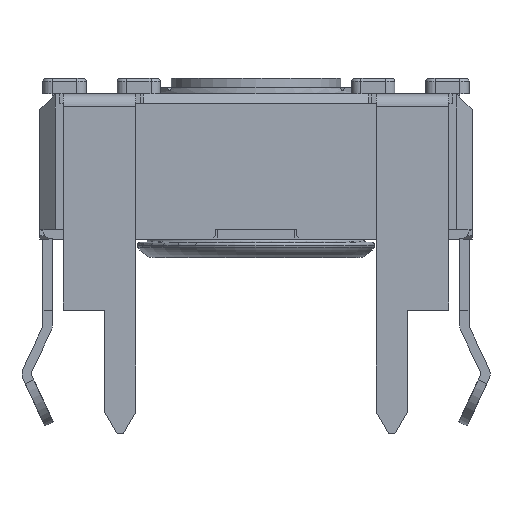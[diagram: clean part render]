
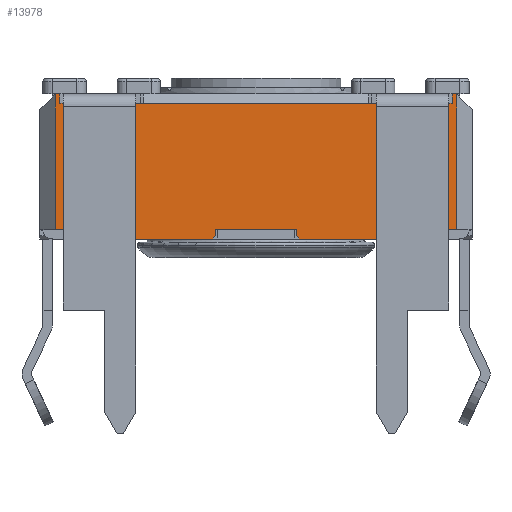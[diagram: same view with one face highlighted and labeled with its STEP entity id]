
A CAD part, front view. The second image highlights one B-rep face of the part: STEP entity #13978.
In plain terms, the highlighted planar face has unit normal (0, -1, 0).
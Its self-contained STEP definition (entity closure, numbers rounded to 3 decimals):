
#445=PLANE('',#14937);
#1091=FACE_OUTER_BOUND('',#1817,.T.);
#1817=EDGE_LOOP('',(#11406,#11407,#11408,#11409,#11410,#11411,#11412,#11413,
#11414,#11415,#11416,#11417,#11418,#11419,#11420,#11421,#11422,#11423,#11424,
#11425,#11426,#11427,#11428,#11429,#11430));
#2475=LINE('',#20078,#4070);
#2478=LINE('',#20086,#4073);
#2504=LINE('',#20137,#4099);
#2505=LINE('',#20139,#4100);
#2508=LINE('',#20147,#4103);
#2534=LINE('',#20198,#4129);
#2726=LINE('',#20762,#4321);
#2739=LINE('',#20786,#4334);
#2891=LINE('',#21344,#4486);
#3055=LINE('',#21786,#4650);
#3060=LINE('',#21796,#4655);
#3065=LINE('',#21806,#4660);
#3080=LINE('',#21832,#4675);
#3166=LINE('',#22106,#4761);
#3174=LINE('',#22124,#4769);
#3180=LINE('',#22132,#4775);
#3181=LINE('',#22135,#4776);
#3182=LINE('',#22137,#4777);
#3183=LINE('',#22139,#4778);
#3184=LINE('',#22140,#4779);
#3185=LINE('',#22141,#4780);
#3186=LINE('',#22142,#4781);
#3187=LINE('',#22143,#4782);
#3188=LINE('',#22144,#4783);
#3189=LINE('',#22145,#4784);
#4070=VECTOR('',#16115,10.);
#4073=VECTOR('',#16126,10.);
#4099=VECTOR('',#16154,10.);
#4100=VECTOR('',#16157,10.);
#4103=VECTOR('',#16168,10.);
#4129=VECTOR('',#16196,10.);
#4321=VECTOR('',#16766,10.);
#4334=VECTOR('',#16793,10.);
#4486=VECTOR('',#17175,10.);
#4650=VECTOR('',#17471,10.);
#4655=VECTOR('',#17476,10.);
#4660=VECTOR('',#17481,10.);
#4675=VECTOR('',#17498,10.);
#4761=VECTOR('',#17718,10.);
#4769=VECTOR('',#17730,10.);
#4775=VECTOR('',#17740,10.);
#4776=VECTOR('',#17743,10.);
#4777=VECTOR('',#17744,10.);
#4778=VECTOR('',#17745,10.);
#4779=VECTOR('',#17746,10.);
#4780=VECTOR('',#17747,10.);
#4781=VECTOR('',#17748,10.);
#4782=VECTOR('',#17749,10.);
#4783=VECTOR('',#17750,10.);
#4784=VECTOR('',#17751,10.);
#5718=VERTEX_POINT('',#19328);
#5728=VERTEX_POINT('',#19350);
#5736=VERTEX_POINT('',#19371);
#5775=VERTEX_POINT('',#19468);
#5996=VERTEX_POINT('',#20085);
#6020=VERTEX_POINT('',#20135);
#6021=VERTEX_POINT('',#20146);
#6045=VERTEX_POINT('',#20196);
#6227=VERTEX_POINT('',#20759);
#6228=VERTEX_POINT('',#20761);
#6231=VERTEX_POINT('',#20783);
#6232=VERTEX_POINT('',#20785);
#6366=VERTEX_POINT('',#21340);
#6483=VERTEX_POINT('',#21785);
#6487=VERTEX_POINT('',#21793);
#6488=VERTEX_POINT('',#21795);
#6492=VERTEX_POINT('',#21803);
#6493=VERTEX_POINT('',#21805);
#6555=VERTEX_POINT('',#22104);
#6556=VERTEX_POINT('',#22105);
#6563=VERTEX_POINT('',#22122);
#6564=VERTEX_POINT('',#22123);
#6565=VERTEX_POINT('',#22134);
#6566=VERTEX_POINT('',#22136);
#6567=VERTEX_POINT('',#22138);
#7420=EDGE_CURVE('',#5775,#5736,#2475,.T.);
#7423=EDGE_CURVE('',#5996,#5775,#2478,.T.);
#7449=EDGE_CURVE('',#5736,#6020,#2504,.T.);
#7450=EDGE_CURVE('',#5718,#5728,#2505,.T.);
#7453=EDGE_CURVE('',#6021,#5718,#2508,.T.);
#7479=EDGE_CURVE('',#5728,#6045,#2534,.T.);
#7762=EDGE_CURVE('',#6228,#6227,#2726,.T.);
#7775=EDGE_CURVE('',#6232,#6231,#2739,.T.);
#7987=EDGE_CURVE('',#6232,#6366,#2891,.T.);
#8172=EDGE_CURVE('',#6483,#6366,#3055,.T.);
#8177=EDGE_CURVE('',#6488,#6487,#3060,.T.);
#8182=EDGE_CURVE('',#6493,#6492,#3065,.T.);
#8197=EDGE_CURVE('',#6493,#6227,#3080,.T.);
#8302=EDGE_CURVE('',#6555,#6556,#3166,.T.);
#8310=EDGE_CURVE('',#6563,#6564,#3174,.T.);
#8316=EDGE_CURVE('',#6488,#6555,#3180,.T.);
#8317=EDGE_CURVE('',#6487,#6565,#3181,.T.);
#8318=EDGE_CURVE('',#6566,#6565,#3182,.T.);
#8319=EDGE_CURVE('',#6566,#6567,#3183,.T.);
#8320=EDGE_CURVE('',#6567,#6483,#3184,.T.);
#8321=EDGE_CURVE('',#6231,#6021,#3185,.T.);
#8322=EDGE_CURVE('',#5996,#6045,#3186,.T.);
#8323=EDGE_CURVE('',#6020,#6228,#3187,.T.);
#8324=EDGE_CURVE('',#6492,#6564,#3188,.T.);
#8325=EDGE_CURVE('',#6563,#6556,#3189,.T.);
#11406=ORIENTED_EDGE('',*,*,#8302,.F.);
#11407=ORIENTED_EDGE('',*,*,#8316,.F.);
#11408=ORIENTED_EDGE('',*,*,#8177,.T.);
#11409=ORIENTED_EDGE('',*,*,#8317,.T.);
#11410=ORIENTED_EDGE('',*,*,#8318,.F.);
#11411=ORIENTED_EDGE('',*,*,#8319,.T.);
#11412=ORIENTED_EDGE('',*,*,#8320,.T.);
#11413=ORIENTED_EDGE('',*,*,#8172,.T.);
#11414=ORIENTED_EDGE('',*,*,#7987,.F.);
#11415=ORIENTED_EDGE('',*,*,#7775,.T.);
#11416=ORIENTED_EDGE('',*,*,#8321,.T.);
#11417=ORIENTED_EDGE('',*,*,#7453,.T.);
#11418=ORIENTED_EDGE('',*,*,#7450,.T.);
#11419=ORIENTED_EDGE('',*,*,#7479,.T.);
#11420=ORIENTED_EDGE('',*,*,#8322,.F.);
#11421=ORIENTED_EDGE('',*,*,#7423,.T.);
#11422=ORIENTED_EDGE('',*,*,#7420,.T.);
#11423=ORIENTED_EDGE('',*,*,#7449,.T.);
#11424=ORIENTED_EDGE('',*,*,#8323,.T.);
#11425=ORIENTED_EDGE('',*,*,#7762,.T.);
#11426=ORIENTED_EDGE('',*,*,#8197,.F.);
#11427=ORIENTED_EDGE('',*,*,#8182,.T.);
#11428=ORIENTED_EDGE('',*,*,#8324,.T.);
#11429=ORIENTED_EDGE('',*,*,#8310,.F.);
#11430=ORIENTED_EDGE('',*,*,#8325,.T.);
#13978=ADVANCED_FACE('',(#1091),#445,.T.);
#14937=AXIS2_PLACEMENT_3D('',#22133,#17741,#17742);
#16115=DIRECTION('',(-1.,0.,0.));
#16126=DIRECTION('',(-1.,0.,0.));
#16154=DIRECTION('',(-1.,0.,0.));
#16157=DIRECTION('',(-1.,0.,0.));
#16168=DIRECTION('',(-1.,0.,0.));
#16196=DIRECTION('',(-1.,0.,0.));
#16766=DIRECTION('',(-1.,0.,0.));
#16793=DIRECTION('',(-1.,0.,0.));
#17175=DIRECTION('',(0.,0.,-1.));
#17471=DIRECTION('',(1.,0.,0.));
#17476=DIRECTION('',(1.,0.,0.));
#17481=DIRECTION('',(1.,0.,0.));
#17498=DIRECTION('',(0.,0.,1.));
#17718=DIRECTION('',(-0.707,0.,-0.707));
#17730=DIRECTION('',(-0.707,0.,0.707));
#17740=DIRECTION('',(0.,0.,-1.));
#17741=DIRECTION('center_axis',(0.,-1.,0.));
#17742=DIRECTION('ref_axis',(0.,0.,-1.));
#17743=DIRECTION('',(0.,0.,-1.));
#17744=DIRECTION('',(-0.707,0.,0.707));
#17745=DIRECTION('',(1.,0.,0.));
#17746=DIRECTION('',(0.,0.,1.));
#17747=DIRECTION('',(0.,0.,-1.));
#17748=DIRECTION('',(1.,0.,0.));
#17749=DIRECTION('',(0.,0.,1.));
#17750=DIRECTION('',(0.,0.,-1.));
#17751=DIRECTION('',(1.,0.,0.));
#19328=CARTESIAN_POINT('',(-1.217,-9.898,4.1));
#19350=CARTESIAN_POINT('',(-3.567,-9.898,4.1));
#19371=CARTESIAN_POINT('',(-13.717,-9.898,4.1));
#19468=CARTESIAN_POINT('',(-11.367,-9.898,4.1));
#20078=CARTESIAN_POINT('',(-3.944,-9.898,4.1));
#20085=CARTESIAN_POINT('',(-11.117,-9.898,4.1));
#20086=CARTESIAN_POINT('',(-3.944,-9.898,4.1));
#20135=CARTESIAN_POINT('',(-13.817,-9.898,4.1));
#20137=CARTESIAN_POINT('',(-3.944,-9.898,4.1));
#20139=CARTESIAN_POINT('',(-1.862,-9.898,4.1));
#20146=CARTESIAN_POINT('',(-1.117,-9.898,4.1));
#20147=CARTESIAN_POINT('',(-1.862,-9.898,4.1));
#20196=CARTESIAN_POINT('',(-3.817,-9.898,4.1));
#20198=CARTESIAN_POINT('',(-1.862,-9.898,4.1));
#20759=CARTESIAN_POINT('',(-13.967,-9.898,4.4));
#20761=CARTESIAN_POINT('',(-13.817,-9.898,4.4));
#20762=CARTESIAN_POINT('',(-14.467,-9.898,4.4));
#20783=CARTESIAN_POINT('',(-1.117,-9.898,4.4));
#20785=CARTESIAN_POINT('',(-0.967,-9.898,4.4));
#20786=CARTESIAN_POINT('',(-14.467,-9.898,4.4));
#21340=CARTESIAN_POINT('',(-0.967,-9.898,0.));
#21344=CARTESIAN_POINT('',(-0.967,-9.898,0.));
#21785=CARTESIAN_POINT('',(-1.467,-9.898,0.));
#21786=CARTESIAN_POINT('',(-0.646,-9.898,0.));
#21793=CARTESIAN_POINT('',(-6.167,-9.898,0.));
#21795=CARTESIAN_POINT('',(-8.767,-9.898,0.));
#21796=CARTESIAN_POINT('',(-14.467,-9.898,0.));
#21803=CARTESIAN_POINT('',(-13.467,-9.898,0.));
#21805=CARTESIAN_POINT('',(-13.967,-9.898,0.));
#21806=CARTESIAN_POINT('',(-7.245,-9.898,0.));
#21832=CARTESIAN_POINT('',(-13.967,-9.898,0.));
#22104=CARTESIAN_POINT('',(-8.767,-9.898,-0.2));
#22105=CARTESIAN_POINT('',(-8.867,-9.898,-0.3));
#22106=CARTESIAN_POINT('',(-6.667,-9.898,1.9));
#22122=CARTESIAN_POINT('',(-13.367,-9.898,-0.3));
#22123=CARTESIAN_POINT('',(-13.467,-9.898,-0.2));
#22124=CARTESIAN_POINT('',(-10.242,-9.898,-3.425));
#22132=CARTESIAN_POINT('',(-8.767,-9.898,0.));
#22133=CARTESIAN_POINT('Origin',(-0.467,-9.898,0.));
#22134=CARTESIAN_POINT('',(-6.167,-9.898,-0.2));
#22135=CARTESIAN_POINT('',(-6.167,-9.898,0.));
#22136=CARTESIAN_POINT('',(-6.067,-9.898,-0.3));
#22137=CARTESIAN_POINT('',(-4.767,-9.898,-1.6));
#22138=CARTESIAN_POINT('',(-1.467,-9.898,-0.3));
#22139=CARTESIAN_POINT('',(-0.467,-9.898,-0.3));
#22140=CARTESIAN_POINT('',(-1.467,-9.898,-0.15));
#22141=CARTESIAN_POINT('',(-1.117,-9.898,2.2));
#22142=CARTESIAN_POINT('',(-3.967,-9.898,4.1));
#22143=CARTESIAN_POINT('',(-13.817,-9.898,2.2));
#22144=CARTESIAN_POINT('',(-13.467,-9.898,-0.15));
#22145=CARTESIAN_POINT('',(-0.467,-9.898,-0.3));
